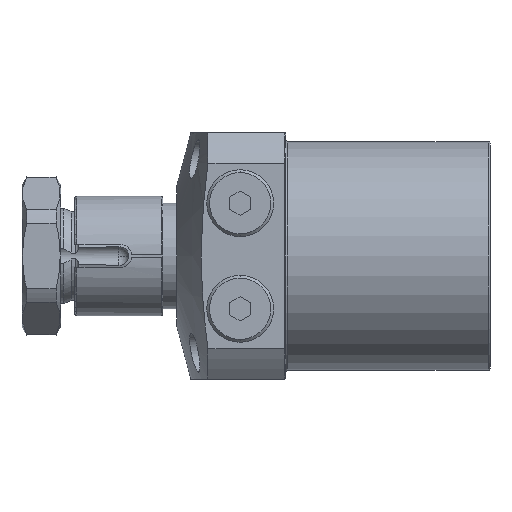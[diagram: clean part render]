
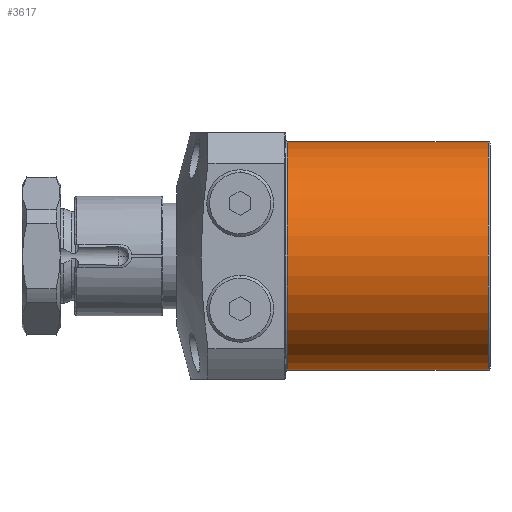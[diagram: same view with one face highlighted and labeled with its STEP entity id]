
A CAD part, left-side view. The second image highlights one B-rep face of the part: STEP entity #3617.
In plain terms, the highlighted cylindrical face has radius 32.5 mm (diameter 65 mm), a partial arc.
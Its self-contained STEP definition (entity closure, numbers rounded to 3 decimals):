
#370 = CARTESIAN_POINT ( 'NONE',  ( 63., 0., 32.5 ) ) ;
#518 = CYLINDRICAL_SURFACE ( 'NONE', #7423, 32.5 ) ;
#1200 = DIRECTION ( 'NONE',  ( -1., 0., 0. ) ) ;
#1313 = CARTESIAN_POINT ( 'NONE',  ( 0.4, 0., 0. ) ) ;
#1385 = CARTESIAN_POINT ( 'NONE',  ( 0.4, 0., 32.5 ) ) ;
#1561 = DIRECTION ( 'NONE',  ( -1., 0., 0. ) ) ;
#1819 = VERTEX_POINT ( 'NONE', #7463 ) ;
#1913 = DIRECTION ( 'NONE',  ( -1., 0., 0. ) ) ;
#1920 = DIRECTION ( 'NONE',  ( 0., 0., 1. ) ) ;
#2135 = ORIENTED_EDGE ( 'NONE', *, *, #5548, .T. ) ;
#2165 = DIRECTION ( 'NONE',  ( -1., 0., 0. ) ) ;
#2230 = CARTESIAN_POINT ( 'NONE',  ( 0.4, 0., -32.5 ) ) ;
#2587 = LINE ( 'NONE', #6741, #7207 ) ;
#2978 = DIRECTION ( 'NONE',  ( 0., 0., 1. ) ) ;
#3423 = EDGE_CURVE ( 'NONE', #1819, #7039, #5451, .T. ) ;
#3596 = AXIS2_PLACEMENT_3D ( 'NONE', #1313, #5520, #1920 ) ;
#3617 = ADVANCED_FACE ( 'NONE', ( #4123 ), #518, .T. ) ;
#3857 = EDGE_CURVE ( 'NONE', #1819, #5040, #2587, .T. ) ;
#4123 = FACE_OUTER_BOUND ( 'NONE', #4794, .T. ) ;
#4735 = VERTEX_POINT ( 'NONE', #1385 ) ;
#4794 = EDGE_LOOP ( 'NONE', ( #6836, #5312, #2135, #6949 ) ) ;
#4944 = CARTESIAN_POINT ( 'NONE',  ( 57.5, 0., 32.5 ) ) ;
#5040 = VERTEX_POINT ( 'NONE', #2230 ) ;
#5275 = LINE ( 'NONE', #370, #6944 ) ;
#5312 = ORIENTED_EDGE ( 'NONE', *, *, #3423, .T. ) ;
#5451 = CIRCLE ( 'NONE', #5903, 32.5 ) ;
#5520 = DIRECTION ( 'NONE',  ( 1., 0., 0. ) ) ;
#5548 = EDGE_CURVE ( 'NONE', #7039, #4735, #5275, .T. ) ;
#5763 = CARTESIAN_POINT ( 'NONE',  ( 57.5, 0., 0. ) ) ;
#5903 = AXIS2_PLACEMENT_3D ( 'NONE', #5763, #2165, #6378 ) ;
#5975 = CARTESIAN_POINT ( 'NONE',  ( 63., 0., 0. ) ) ;
#6378 = DIRECTION ( 'NONE',  ( 0., 0., -1. ) ) ;
#6741 = CARTESIAN_POINT ( 'NONE',  ( 63., 0., -32.5 ) ) ;
#6836 = ORIENTED_EDGE ( 'NONE', *, *, #3857, .F. ) ;
#6845 = CIRCLE ( 'NONE', #3596, 32.5 ) ;
#6944 = VECTOR ( 'NONE', #1561, 1000. ) ;
#6949 = ORIENTED_EDGE ( 'NONE', *, *, #6999, .T. ) ;
#6999 = EDGE_CURVE ( 'NONE', #4735, #5040, #6845, .T. ) ;
#7039 = VERTEX_POINT ( 'NONE', #4944 ) ;
#7207 = VECTOR ( 'NONE', #1913, 1000. ) ;
#7423 = AXIS2_PLACEMENT_3D ( 'NONE', #5975, #1200, #2978 ) ;
#7463 = CARTESIAN_POINT ( 'NONE',  ( 57.5, 0., -32.5 ) ) ;
